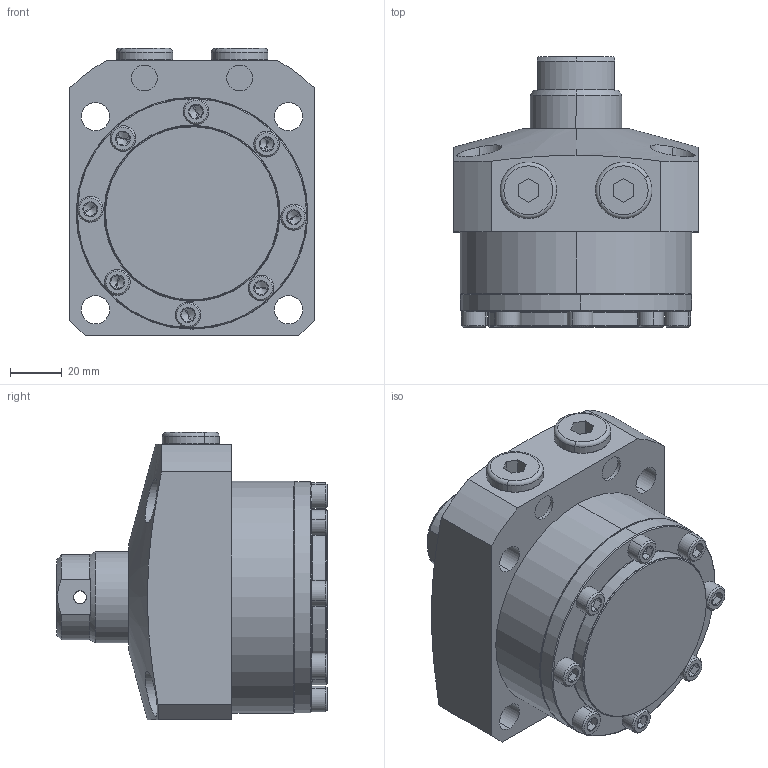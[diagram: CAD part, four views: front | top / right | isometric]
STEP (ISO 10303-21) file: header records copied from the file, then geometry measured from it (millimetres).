
FILE_DESCRIPTION (( 'STEP AP203' ), '1' );
FILE_NAME ('680900-CB-015.step', '2016-11-02T03:28:49', ( 'wxp' ), ( '' ), 'SwSTEP 2.0', 'SolidWorks 2011', '' );
FILE_SCHEMA (( 'CONFIG_CONTROL_DESIGN' ));
Length unit declared in the file: millimetre
Products named in the file (6): 680900-CB-015; 葩璃 68090-CA-15-5^680900-CB-015; 葩璃 68090-CA-15-4^680900-CB-015; 葩璃 68090-CA-15-3^680900-CB-015; 葩璃 68090-CA-15-2^680900-CB-015; 葩璃 68090-CA-15-1^680900-CB-015
Assembly tree (13 placements, depth 2):
  680900-CB-015
    葩璃 68090-CA-15-4^680900-CB-015  x8
    葩璃 68090-CA-15-5^680900-CB-015  x2
    葩璃 68090-CA-15-2^680900-CB-015
    葩璃 68090-CA-15-1^680900-CB-015
    葩璃 68090-CA-15-3^680900-CB-015
Bounding box: 95 x 105 x 111.5 mm (x, y, z)
Volume: 555806.6 mm3; surface area: 78830.3 mm2
Topology: 13 solids, 13 shells, 411 faces, 801 edges, 432 vertices
Faces by surface type: plane 168, cone 120, cylinder 107, torus 16
Entity records: 6137 total; most frequent: CARTESIAN_POINT 1420, DIRECTION 893, ORIENTED_EDGE 734, AXIS2_PLACEMENT_3D 374, EDGE_CURVE 367, VERTEX_POINT 225, EDGE_LOOP 214, CIRCLE 190
